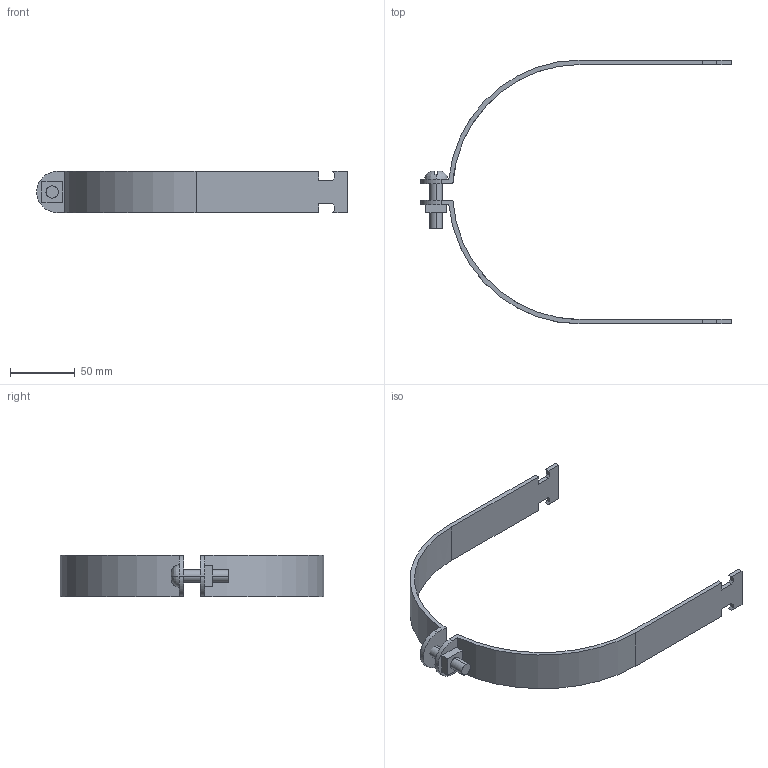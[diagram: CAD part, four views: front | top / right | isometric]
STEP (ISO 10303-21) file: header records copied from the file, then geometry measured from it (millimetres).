
FILE_DESCRIPTION(('TurboCAD Mac Pro'),'Build 980');
FILE_NAME('P2070-76.stp',' ',(''),(''),'ACIS Interop','IMSI','TurboCAD Mac Pro BY IMSI, INCORPORATED');
FILE_SCHEMA(('automotive_design'));
Length unit declared in the file: inch
Products named in the file (5): 1; 2; 3; 4; 5
Bounding box: 239.71 x 203.58 x 31.75 mm (x, y, z)
Volume: 65932.5 mm3; surface area: 42931.7 mm2
Topology: 4 solids, 4 shells, 71 faces, 186 edges, 124 vertices
Faces by surface type: plane 51, bspline 20
Entity records: 3487 total; most frequent: CARTESIAN_POINT 1050, ORIENTED_EDGE 372, DIRECTION 258, EDGE_CURVE 186, LINE 138, VECTOR 138, VERTEX_POINT 124, STYLED_ITEM 91
